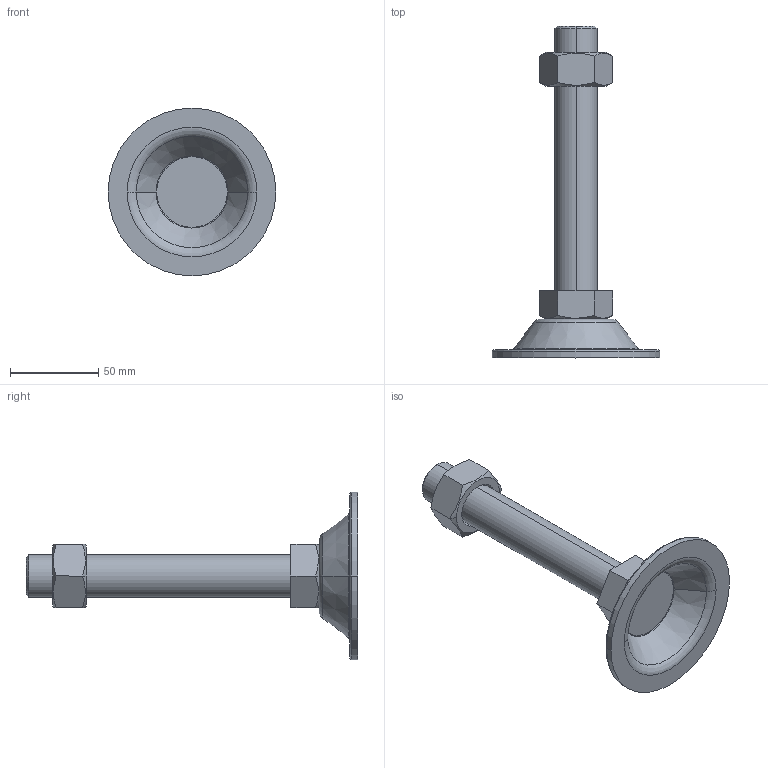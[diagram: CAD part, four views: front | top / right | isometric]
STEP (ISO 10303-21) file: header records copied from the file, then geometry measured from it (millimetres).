
FILE_DESCRIPTION (( 'STEP AP214' ), '1' );
FILE_NAME ('BL95-M24-150.step', '2021-01-06T05:42:17', ( '' ), ( '' ), 'SwSTEP 2.0', 'SolidWorks 2019', '' );
FILE_SCHEMA (( 'AUTOMOTIVE_DESIGN' ));
Length unit declared in the file: millimetre
Products named in the file (1): BL95-M24-150
Bounding box: 95 x 188 x 95 mm (x, y, z)
Volume: 136366 mm3; surface area: 38530.7 mm2
Topology: 3 solids, 3 shells, 53 faces, 110 edges, 66 vertices
Faces by surface type: plane 21, cone 16, torus 10, cylinder 6
Entity records: 1654 total; most frequent: CARTESIAN_POINT 464, DIRECTION 252, ORIENTED_EDGE 220, EDGE_CURVE 110, AXIS2_PLACEMENT_3D 106, VERTEX_POINT 66, EDGE_LOOP 58, ADVANCED_FACE 53
